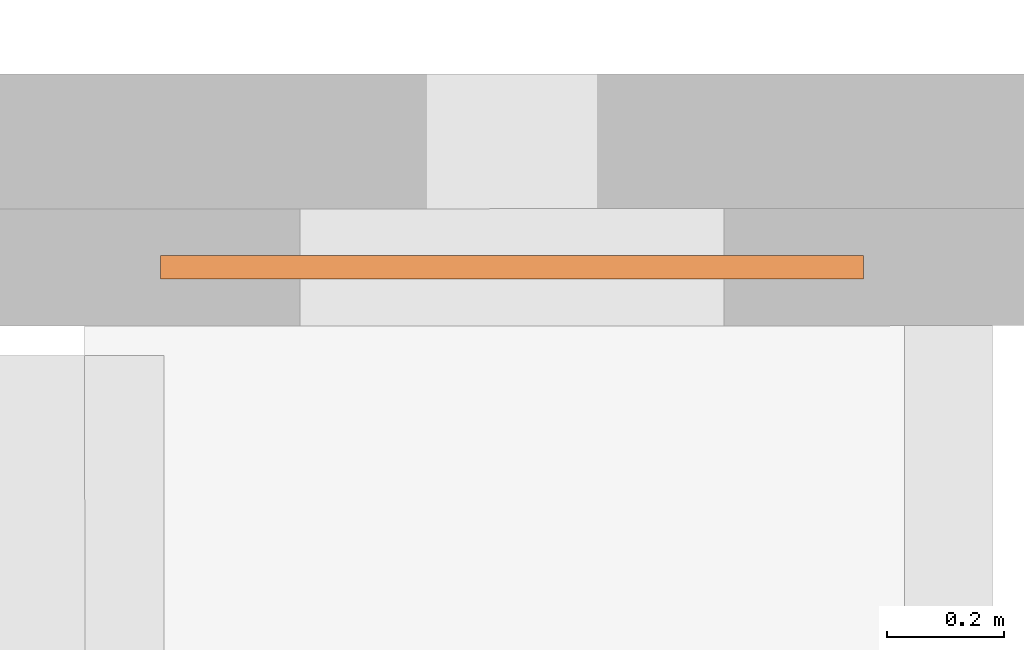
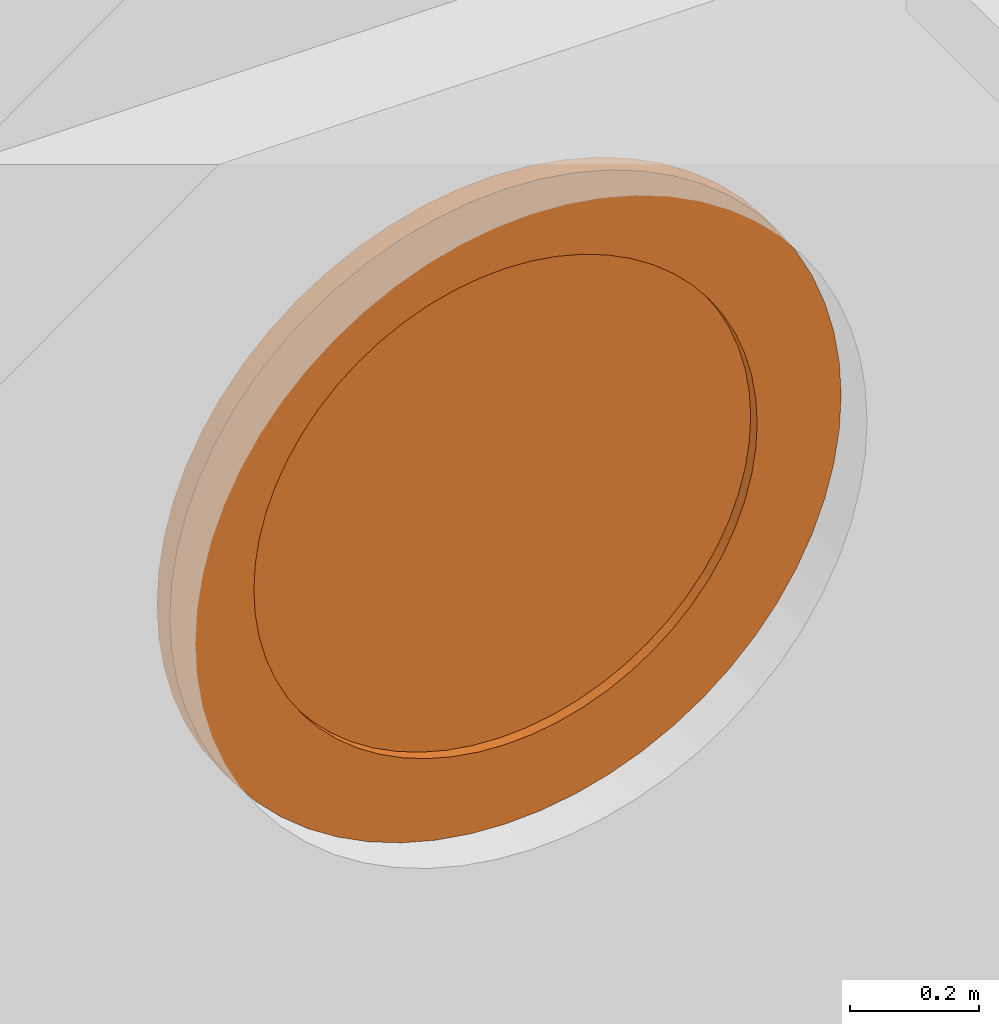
# One storey, part 8 of 9: 1 proxy.
"""IFC2X3 building model written with IfcOpenShell, lengths in metres."""

from ifc_helpers import new_model, entity, si_unit, converted_unit, derived_unit, direction, frame, origin, origin_with_axes, place, context, subcontext, project, spatial, closed_shell, open_shell, surface_model, source, transform, mapped, element, save


model = new_model("IFC2X3")

# Units and contexts
model_context = context("Model", 3, precision=1e-05, world=origin(), true_north=direction((0.772621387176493, -0.634867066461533)))
body_context = subcontext(model_context, "Body", "Model", "MODEL_VIEW")
ifc_project = project(units=[si_unit("LENGTHUNIT", "METRE"), si_unit("AREAUNIT", "SQUARE_METRE"), si_unit("VOLUMEUNIT", "CUBIC_METRE"), si_unit("MASSUNIT", "GRAM", prefix="KILO"), converted_unit("PLANEANGLEUNIT", "DEGREE", entity("IfcPlaneAngleMeasure", 0.0174532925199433), si_unit("PLANEANGLEUNIT", "RADIAN"), dimensions=[0, 0, 0, 0, 0, 0, 0]), derived_unit("THERMALTRANSMITTANCEUNIT", [(si_unit("POWERUNIT", "WATT"), 1), (si_unit("THERMODYNAMICTEMPERATUREUNIT", "KELVIN"), -1), (si_unit("LENGTHUNIT", "METRE"), -2)]), derived_unit("VOLUMETRICFLOWRATEUNIT", [(si_unit("LENGTHUNIT", "METRE"), 3), (converted_unit("TIMEUNIT", "hour", entity("IfcTimeMeasure", 3600.0), si_unit("TIMEUNIT", "SECOND"), dimensions=[0, 0, 1, 0, 0, 0, 0]), -1), (si_unit("LENGTHUNIT", "METRE"), -1)])], contexts=[model_context])

# Site, building, storey
site_placement = place(None, origin())
site = spatial("IfcSite", under=ifc_project, at=site_placement, Name="Modelle auf dem Nullpunkt", CompositionType="ELEMENT")
building_placement = place(site_placement, origin())
building = spatial("IfcBuilding", under=site, at=building_placement, Name="I", CompositionType="ELEMENT")
storey_placement = place(building_placement, origin())
storey = spatial("IfcBuildingStorey", under=building, at=storey_placement, Name="1.OG", CompositionType="ELEMENT", Elevation=0.0)

# Proxy
shared_shape = source(origin_with_axes(), body_context, "Body", "SurfaceModel", [
    surface_model("IfcShellBasedSurfaceModel", [(0.00328937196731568, 0.0, 0.537259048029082), (0.0, 0.0, 0.600024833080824), (0.00328937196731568, 0.0, 0.662740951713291), (0.0131162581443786, 0.0, 0.724769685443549), (0.0293729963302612, 0.0, 0.785431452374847), (0.0518814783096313, 0.0, 0.844061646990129), (0.0803951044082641, 0.0, 0.900017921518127), (0.114601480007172, 0.0, 0.952687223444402), (0.154125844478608, 0.0, 1.00149251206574), (0.198535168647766, 0.0, 1.0458990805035), (0.247342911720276, 0.0, 1.08542041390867), (0.300014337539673, 0.0, 1.11962351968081), (0.355972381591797, 0.0, 1.14813367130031), (0.414603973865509, 0.0, 1.1706385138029), (0.475266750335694, 0.0, 1.18689148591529), (0.537296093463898, 0.0, 1.19671452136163), (0.6000124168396, 0.0, 1.19999999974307), (0.662728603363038, 0.0, 1.19671192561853), (0.724757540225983, 0.0, 1.18688632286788), (0.7854196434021, 0.0, 1.17063084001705), (0.844050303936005, 0.0, 1.14812357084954), (0.900007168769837, 0.0, 1.11961110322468), (0.952677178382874, 0.0, 1.08540581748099), (1.00148328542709, 0.0, 1.04588246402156), (1.04589077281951, 0.0, 1.00147405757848), (1.08541311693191, 0.0, 0.952667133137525), (1.11961731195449, 0.0, 0.899996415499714), (1.14812862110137, 0.0, 0.844038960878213), (1.17063467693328, 0.0, 0.785407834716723), (1.18688890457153, 0.0, 0.724745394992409), (1.19671322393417, 0.0, 0.662716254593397), (1.20000000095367, 0.0, 0.599999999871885), (1.19671322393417, 0.0, 0.537283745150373), (1.18688890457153, 0.0, 0.475254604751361), (1.17063467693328, 0.0, 0.414592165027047), (1.14812862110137, 0.0, 0.355961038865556), (1.11961731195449, 0.0, 0.300003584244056), (1.08541311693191, 0.0, 0.247332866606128), (1.04589077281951, 0.0, 0.198525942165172), (1.00148328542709, 0.0, 0.154117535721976), (0.952677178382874, 0.0, 0.114594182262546), (0.900007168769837, 0.0, 0.0803888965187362), (0.844050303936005, 0.0, 0.0518764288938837), (0.7854196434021, 0.0, 0.0293691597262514), (0.724757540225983, 0.0, 0.0131136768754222), (0.662728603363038, 0.0, 0.00328807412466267), (0.6000124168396, 0.0, 0.0), (0.537296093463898, 0.0, 0.00328547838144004), (0.475266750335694, 0.0, 0.0131085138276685), (0.414603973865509, 0.0, 0.029361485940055), (0.355972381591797, 0.0, 0.0518663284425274), (0.300014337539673, 0.0, 0.0803764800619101), (0.247342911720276, 0.0, 0.114579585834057), (0.198535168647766, 0.0, 0.154100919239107), (0.154125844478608, 0.0, 0.198507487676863), (0.114601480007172, 0.0, 0.247312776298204), (0.0803951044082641, 0.0, 0.299982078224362), (0.0518814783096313, 0.0, 0.355938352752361), (0.0293729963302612, 0.0, 0.414568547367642), (0.0131162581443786, 0.0, 0.475230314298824), (0.15020600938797, 0.0, 0.600021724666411), (0.15267223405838, 0.0, 0.552962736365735), (0.160038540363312, 0.0, 0.506465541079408), (0.172225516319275, 0.0, 0.46099002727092), (0.189099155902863, 0.0, 0.41703749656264), (0.210474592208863, 0.0, 0.375089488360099), (0.236117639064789, 0.0, 0.335605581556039), (0.265747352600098, 0.0, 0.299018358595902), (0.299039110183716, 0.0, 0.265728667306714), (0.335628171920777, 0.0, 0.236101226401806), (0.375113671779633, 0.0, 0.210460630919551), (0.417063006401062, 0.0, 0.189087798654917), (0.461016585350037, 0.0, 0.172216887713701), (0.506492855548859, 0.0, 0.160032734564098), (0.552993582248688, 0.0, 0.152668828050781), (0.600009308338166, 0.0, 0.150205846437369), (0.647024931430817, 0.0, 0.152670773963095), (0.693525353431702, 0.0, 0.160036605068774), (0.739001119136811, 0.0, 0.172222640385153), (0.782953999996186, 0.0, 0.189095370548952), (0.824902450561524, 0.0, 0.210469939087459), (0.864386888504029, 0.0, 0.236112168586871), (0.900974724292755, 0.0, 0.26574112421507), (0.934265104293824, 0.0, 0.299032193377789), (0.963893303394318, 0.0, 0.33562064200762), (0.989534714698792, 0.0, 0.375105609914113), (1.01090841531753, 0.0, 0.417054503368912), (1.0277802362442, 0.0, 0.461007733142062), (1.03996533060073, 0.0, 0.506483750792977), (1.04733019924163, 0.0, 0.55298432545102), (1.04979415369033, 0.0, 0.599999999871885), (1.04733019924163, 0.0, 0.64701567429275), (1.03996533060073, 0.0, 0.693516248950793), (1.0277802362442, 0.0, 0.738992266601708), (1.01090841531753, 0.0, 0.782945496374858), (0.989534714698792, 0.0, 0.824894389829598), (0.963893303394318, 0.0, 0.864379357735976), (0.934265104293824, 0.0, 0.900967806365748), (0.900974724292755, 0.0, 0.934258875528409), (0.864386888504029, 0.0, 0.963887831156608), (0.824902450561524, 0.0, 0.989530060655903), (0.782953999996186, 0.0, 1.01090462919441), (0.739001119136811, 0.0, 1.02777735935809), (0.693525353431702, 0.0, 1.03996339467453), (0.647024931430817, 0.0, 1.04732922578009), (0.600009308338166, 0.0, 1.0497941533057), (0.552993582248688, 0.0, 1.04733117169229), (0.506492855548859, 0.0, 1.03996726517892), (0.461016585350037, 0.0, 1.02778311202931), (0.417063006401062, 0.0, 1.01091220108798), (0.375113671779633, 0.0, 0.989539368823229), (0.335628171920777, 0.0, 0.963898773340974), (0.299039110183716, 0.0, 0.934271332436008), (0.265747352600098, 0.0, 0.900981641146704), (0.236117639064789, 0.0, 0.864394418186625), (0.210474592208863, 0.0, 0.824910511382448), (0.189099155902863, 0.0, 0.78296250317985), (0.172225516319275, 0.0, 0.739009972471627), (0.160038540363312, 0.0, 0.693534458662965), (0.152671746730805, 0.0, 0.64703418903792), (0.0, 0.0399999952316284, 0.600024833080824), (0.00328937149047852, 0.0399999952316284, 0.537259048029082), (0.0131162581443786, 0.0399999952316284, 0.475230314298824), (0.0293729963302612, 0.039999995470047, 0.414568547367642), (0.0518814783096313, 0.0399999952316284, 0.355938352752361), (0.0803951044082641, 0.039999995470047, 0.299982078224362), (0.114601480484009, 0.0399999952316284, 0.247312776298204), (0.154125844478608, 0.039999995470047, 0.198507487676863), (0.198535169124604, 0.0399999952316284, 0.154100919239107), (0.247342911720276, 0.0399999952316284, 0.114579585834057), (0.300014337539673, 0.0399999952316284, 0.0803764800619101), (0.35597238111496, 0.0399999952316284, 0.0518663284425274), (0.414603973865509, 0.0399999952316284, 0.029361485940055), (0.475266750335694, 0.0399999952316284, 0.0131085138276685), (0.537296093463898, 0.039999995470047, 0.00328547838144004), (0.6000124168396, 0.0399999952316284, 0.0), (0.6627286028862, 0.0399999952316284, 0.00328807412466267), (0.724757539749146, 0.039999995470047, 0.0131136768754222), (0.785419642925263, 0.0399999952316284, 0.0293691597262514), (0.844050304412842, 0.0399999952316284, 0.0518764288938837), (0.900007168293, 0.039999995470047, 0.0803888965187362), (0.952677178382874, 0.039999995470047, 0.114594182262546), (1.00148328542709, 0.0399999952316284, 0.154117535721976), (1.04589077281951, 0.0399999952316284, 0.198525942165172), (1.08541311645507, 0.0399999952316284, 0.247332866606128), (1.11961731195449, 0.039999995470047, 0.300003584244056), (1.14812862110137, 0.0399999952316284, 0.355961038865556), (1.17063467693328, 0.039999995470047, 0.414592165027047), (1.18688890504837, 0.0399999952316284, 0.475254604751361), (1.19671322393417, 0.0399999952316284, 0.537283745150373), (1.20000000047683, 0.0399999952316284, 0.599999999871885), (1.19671322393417, 0.0399999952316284, 0.662716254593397), (1.18688890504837, 0.0399999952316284, 0.724745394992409), (1.17063467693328, 0.039999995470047, 0.785407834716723), (1.14812862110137, 0.0399999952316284, 0.844038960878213), (1.11961731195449, 0.039999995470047, 0.899996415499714), (1.08541311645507, 0.0399999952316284, 0.952667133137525), (1.04589077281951, 0.0399999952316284, 1.00147405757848), (1.00148328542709, 0.0399999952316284, 1.04588246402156), (0.952677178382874, 0.039999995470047, 1.08540581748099), (0.900007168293, 0.039999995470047, 1.11961110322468), (0.844050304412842, 0.0399999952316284, 1.14812357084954), (0.785419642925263, 0.0399999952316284, 1.17063084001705), (0.724757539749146, 0.039999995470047, 1.18688632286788), (0.6627286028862, 0.0399999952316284, 1.19671192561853), (0.6000124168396, 0.0399999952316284, 1.19999999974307), (0.537296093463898, 0.039999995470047, 1.19671452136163), (0.475266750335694, 0.0399999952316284, 1.18689148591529), (0.414603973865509, 0.0399999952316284, 1.1706385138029), (0.35597238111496, 0.0399999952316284, 1.14813367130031), (0.300014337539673, 0.0399999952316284, 1.11962351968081), (0.247342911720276, 0.0399999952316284, 1.08542041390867), (0.198535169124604, 0.0399999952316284, 1.0458990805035), (0.154125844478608, 0.039999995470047, 1.00149251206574), (0.114601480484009, 0.0399999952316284, 0.952687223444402), (0.0803951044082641, 0.039999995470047, 0.900017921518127), (0.0518814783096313, 0.0399999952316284, 0.844061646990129), (0.0293729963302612, 0.039999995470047, 0.785431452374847), (0.0131162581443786, 0.0399999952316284, 0.724769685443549), (0.00328937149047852, 0.0399999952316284, 0.662740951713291), (0.152672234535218, 0.0399999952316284, 0.552962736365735), (0.15020600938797, 0.0399999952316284, 0.600021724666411), (0.152671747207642, 0.039999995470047, 0.64703418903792), (0.160038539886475, 0.039999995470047, 0.693534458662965), (0.172225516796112, 0.0399999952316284, 0.739009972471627), (0.189099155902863, 0.0399999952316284, 0.78296250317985), (0.2104745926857, 0.039999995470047, 0.824910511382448), (0.236117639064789, 0.0399999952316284, 0.864394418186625), (0.265747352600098, 0.039999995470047, 0.900981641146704), (0.299039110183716, 0.0399999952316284, 0.934271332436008), (0.335628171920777, 0.039999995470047, 0.963898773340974), (0.375113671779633, 0.0399999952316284, 0.989539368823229), (0.417063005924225, 0.0399999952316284, 1.01091220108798), (0.4610165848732, 0.0399999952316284, 1.02778311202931), (0.506492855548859, 0.0399999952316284, 1.03996726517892), (0.552993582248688, 0.0399999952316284, 1.04733117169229), (0.600009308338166, 0.0399999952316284, 1.0497941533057), (0.647024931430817, 0.039999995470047, 1.04732922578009), (0.693525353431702, 0.039999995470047, 1.03996339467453), (0.739001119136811, 0.039999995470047, 1.02777735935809), (0.782953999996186, 0.0399999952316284, 1.01090462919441), (0.824902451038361, 0.039999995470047, 0.989530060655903), (0.864386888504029, 0.039999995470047, 0.963887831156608), (0.900974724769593, 0.0399999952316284, 0.934258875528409), (0.934265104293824, 0.039999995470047, 0.900967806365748), (0.963893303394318, 0.0399999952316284, 0.864379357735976), (0.989534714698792, 0.0399999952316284, 0.824894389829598), (1.01090841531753, 0.0399999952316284, 0.782945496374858), (1.0277802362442, 0.0399999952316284, 0.738992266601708), (1.03996533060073, 0.0399999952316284, 0.693516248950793), (1.04733019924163, 0.0399999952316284, 0.64701567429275), (1.04979415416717, 0.0399999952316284, 0.599999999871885), (1.04733019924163, 0.0399999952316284, 0.55298432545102), (1.03996533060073, 0.0399999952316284, 0.506483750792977), (1.0277802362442, 0.0399999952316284, 0.461007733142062), (1.01090841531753, 0.0399999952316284, 0.417054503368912), (0.989534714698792, 0.0399999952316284, 0.375105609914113), (0.963893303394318, 0.0399999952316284, 0.33562064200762), (0.934265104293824, 0.039999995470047, 0.299032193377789), (0.900974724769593, 0.0399999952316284, 0.26574112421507), (0.864386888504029, 0.039999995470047, 0.236112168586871), (0.824902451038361, 0.039999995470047, 0.210469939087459), (0.782953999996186, 0.0399999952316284, 0.189095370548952), (0.739001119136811, 0.039999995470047, 0.172222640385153), (0.693525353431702, 0.039999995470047, 0.160036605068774), (0.647024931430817, 0.039999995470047, 0.152670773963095), (0.600009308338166, 0.0399999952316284, 0.150205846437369), (0.552993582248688, 0.0399999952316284, 0.152668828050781), (0.506492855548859, 0.0399999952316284, 0.160032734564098), (0.4610165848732, 0.0399999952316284, 0.172216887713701), (0.417063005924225, 0.0399999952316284, 0.189087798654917), (0.375113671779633, 0.0399999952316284, 0.210460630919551), (0.335628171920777, 0.039999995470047, 0.236101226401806), (0.299039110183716, 0.0399999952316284, 0.265728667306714), (0.265747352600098, 0.039999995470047, 0.299018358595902), (0.236117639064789, 0.0399999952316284, 0.335605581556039), (0.2104745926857, 0.039999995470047, 0.375089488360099), (0.189099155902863, 0.0399999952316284, 0.41703749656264), (0.172225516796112, 0.0399999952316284, 0.46099002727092), (0.160038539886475, 0.039999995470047, 0.506465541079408)], [closed_shell([[[0, 1, 2, 3, 4, 5, 6, 7, 8, 9, 10, 11, 12, 13, 14, 15, 16, 17, 18, 19, 20, 21, 22, 23, 24, 25, 26, 27, 28, 29, 30, 31, 32, 33, 34, 35, 36, 37, 38, 39, 40, 41, 42, 43, 44, 45, 46, 47, 48, 49, 50, 51, 52, 53, 54, 55, 56, 57, 58, 59], [60, 61, 62, 63, 64, 65, 66, 67, 68, 69, 70, 71, 72, 73, 74, 75, 76, 77, 78, 79, 80, 81, 82, 83, 84, 85, 86, 87, 88, 89, 90, 91, 92, 93, 94, 95, 96, 97, 98, 99, 100, 101, 102, 103, 104, 105, 106, 107, 108, 109, 110, 111, 112, 113, 114, 115, 116, 117, 118, 119]], [[120, 121, 122, 123, 124, 125, 126, 127, 128, 129, 130, 131, 132, 133, 134, 135, 136, 137, 138, 139, 140, 141, 142, 143, 144, 145, 146, 147, 148, 149, 150, 151, 152, 153, 154, 155, 156, 157, 158, 159, 160, 161, 162, 163, 164, 165, 166, 167, 168, 169, 170, 171, 172, 173, 174, 175, 176, 177, 178, 179], [180, 181, 182, 183, 184, 185, 186, 187, 188, 189, 190, 191, 192, 193, 194, 195, 196, 197, 198, 199, 200, 201, 202, 203, 204, 205, 206, 207, 208, 209, 210, 211, 212, 213, 214, 215, 216, 217, 218, 219, 220, 221, 222, 223, 224, 225, 226, 227, 228, 229, 230, 231, 232, 233, 234, 235, 236, 237, 238, 239]], [[1, 0, 121, 120]], [[2, 1, 120, 179]], [[3, 2, 179, 178]], [[4, 3, 178, 177]], [[5, 4, 177, 176]], [[6, 5, 176, 175]], [[7, 6, 175, 174]], [[8, 7, 174, 173]], [[9, 8, 173, 172]], [[10, 9, 172, 171]], [[11, 10, 171, 170]], [[12, 11, 170, 169]], [[13, 12, 169, 168]], [[14, 13, 168, 167]], [[15, 14, 167, 166]], [[16, 15, 166, 165]], [[17, 16, 165, 164]], [[18, 17, 164, 163]], [[19, 18, 163, 162]], [[20, 19, 162, 161]], [[21, 20, 161, 160]], [[22, 21, 160, 159]], [[23, 22, 159, 158]], [[24, 23, 158, 157]], [[25, 24, 157, 156]], [[26, 25, 156, 155]], [[27, 26, 155, 154]], [[28, 27, 154, 153]], [[29, 28, 153, 152]], [[30, 29, 152, 151]], [[31, 30, 151, 150]], [[32, 31, 150, 149]], [[33, 32, 149, 148]], [[34, 33, 148, 147]], [[35, 34, 147, 146]], [[36, 35, 146, 145]], [[37, 36, 145, 144]], [[38, 37, 144, 143]], [[39, 38, 143, 142]], [[40, 39, 142, 141]], [[41, 40, 141, 140]], [[42, 41, 140, 139]], [[43, 42, 139, 138]], [[44, 43, 138, 137]], [[45, 44, 137, 136]], [[46, 45, 136, 135]], [[47, 46, 135, 134]], [[48, 47, 134, 133]], [[49, 48, 133, 132]], [[50, 49, 132, 131]], [[51, 50, 131, 130]], [[52, 51, 130, 129]], [[53, 52, 129, 128]], [[54, 53, 128, 127]], [[55, 54, 127, 126]], [[56, 55, 126, 125]], [[57, 56, 125, 124]], [[58, 57, 124, 123]], [[59, 58, 123, 122]], [[0, 59, 122, 121]], [[60, 181, 180, 61]], [[119, 182, 181, 60]], [[118, 183, 182, 119]], [[117, 184, 183, 118]], [[116, 185, 184, 117]], [[115, 186, 185, 116]], [[114, 187, 186, 115]], [[113, 188, 187, 114]], [[112, 189, 188, 113]], [[111, 190, 189, 112]], [[110, 191, 190, 111]], [[109, 192, 191, 110]], [[108, 193, 192, 109]], [[107, 194, 193, 108]], [[106, 195, 194, 107]], [[105, 196, 195, 106]], [[104, 197, 196, 105]], [[103, 198, 197, 104]], [[102, 199, 198, 103]], [[101, 200, 199, 102]], [[100, 201, 200, 101]], [[99, 202, 201, 100]], [[98, 203, 202, 99]], [[97, 204, 203, 98]], [[96, 205, 204, 97]], [[95, 206, 205, 96]], [[94, 207, 206, 95]], [[93, 208, 207, 94]], [[92, 209, 208, 93]], [[91, 210, 209, 92]], [[90, 211, 210, 91]], [[89, 212, 211, 90]], [[88, 213, 212, 89]], [[87, 214, 213, 88]], [[86, 215, 214, 87]], [[85, 216, 215, 86]], [[84, 217, 216, 85]], [[83, 218, 217, 84]], [[82, 219, 218, 83]], [[81, 220, 219, 82]], [[80, 221, 220, 81]], [[79, 222, 221, 80]], [[78, 223, 222, 79]], [[77, 224, 223, 78]], [[76, 225, 224, 77]], [[75, 226, 225, 76]], [[74, 227, 226, 75]], [[73, 228, 227, 74]], [[72, 229, 228, 73]], [[71, 230, 229, 72]], [[70, 231, 230, 71]], [[69, 232, 231, 70]], [[68, 233, 232, 69]], [[67, 234, 233, 68]], [[66, 235, 234, 67]], [[65, 236, 235, 66]], [[64, 237, 236, 65]], [[63, 238, 237, 64]], [[62, 239, 238, 63]], [[61, 180, 239, 62]]], orient=[[False, False], [False, False], [False], [False], [False], [False], [False], [False], [False], [False], [False], [False], [False], [False], [False], [False], [False], [False], [False], [False], [False], [False], [False], [False], [False], [False], [False], [False], [False], [False], [False], [False], [False], [False], [False], [False], [False], [False], [False], [False], [False], [False], [False], [False], [False], [False], [False], [False], [False], [False], [False], [False], [False], [False], [False], [False], [False], [False], [False], [False], [False], [False], [False], [False], [False], [False], [False], [False], [False], [False], [False], [False], [False], [False], [False], [False], [False], [False], [False], [False], [False], [False], [False], [False], [False], [False], [False], [False], [False], [False], [False], [False], [False], [False], [False], [False], [False], [False], [False], [False], [False], [False], [False], [False], [False], [False], [False], [False], [False], [False], [False], [False], [False], [False], [False], [False], [False], [False], [False], [False], [False], [False]])]),
    surface_model("IfcShellBasedSurfaceModel", [(0.150204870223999, 0.0200000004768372, 0.599999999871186), (0.152671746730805, 0.0200000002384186, 0.64703418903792), (0.160038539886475, 0.0200000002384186, 0.693534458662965), (0.172225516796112, 0.0200000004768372, 0.739009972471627), (0.189099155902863, 0.0200000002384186, 0.78296250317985), (0.2104745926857, 0.0200000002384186, 0.824910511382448), (0.236117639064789, 0.0200000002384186, 0.864394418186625), (0.265747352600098, 0.0200000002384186, 0.900981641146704), (0.299039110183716, 0.0200000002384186, 0.934271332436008), (0.335628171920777, 0.0200000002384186, 0.963898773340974), (0.375113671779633, 0.0200000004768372, 0.989539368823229), (0.417063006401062, 0.0200000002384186, 1.01091220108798), (0.461016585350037, 0.0200000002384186, 1.02778311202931), (0.506492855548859, 0.0200000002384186, 1.03996726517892), (0.552993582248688, 0.0200000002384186, 1.04733117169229), (0.600009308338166, 0.0200000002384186, 1.0497941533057), (0.647024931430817, 0.0200000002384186, 1.04732922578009), (0.693525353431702, 0.0200000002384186, 1.03996339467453), (0.739001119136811, 0.0200000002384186, 1.02777735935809), (0.782954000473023, 0.0200000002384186, 1.01090462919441), (0.824902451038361, 0.0200000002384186, 0.989530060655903), (0.864386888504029, 0.0200000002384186, 0.963887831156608), (0.900974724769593, 0.0200000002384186, 0.934258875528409), (0.934265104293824, 0.0200000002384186, 0.900967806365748), (0.963893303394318, 0.0200000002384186, 0.864379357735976), (0.989534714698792, 0.0200000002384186, 0.824894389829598), (1.01090841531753, 0.0200000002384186, 0.782945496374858), (1.0277802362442, 0.0200000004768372, 0.738992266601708), (1.03996533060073, 0.0200000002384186, 0.693516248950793), (1.04733019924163, 0.0200000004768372, 0.64701567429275), (1.04979415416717, 0.0200000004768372, 0.599999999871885), (1.04733019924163, 0.0200000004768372, 0.55298432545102), (1.03996533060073, 0.0200000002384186, 0.506483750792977), (1.0277802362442, 0.0200000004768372, 0.461007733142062), (1.01090841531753, 0.0200000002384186, 0.417054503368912), (0.989534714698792, 0.0200000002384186, 0.375105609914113), (0.963893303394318, 0.0200000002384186, 0.33562064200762), (0.934265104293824, 0.0200000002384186, 0.299032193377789), (0.900974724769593, 0.0200000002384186, 0.26574112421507), (0.864386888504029, 0.0200000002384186, 0.236112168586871), (0.824902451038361, 0.0200000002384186, 0.210469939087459), (0.782954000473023, 0.0200000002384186, 0.189095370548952), (0.739001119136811, 0.0200000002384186, 0.172222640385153), (0.693525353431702, 0.0200000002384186, 0.160036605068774), (0.647024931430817, 0.0200000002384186, 0.152670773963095), (0.600009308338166, 0.0200000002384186, 0.150205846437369), (0.552993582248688, 0.0200000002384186, 0.152668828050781), (0.506492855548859, 0.0200000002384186, 0.160032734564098), (0.461016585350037, 0.0200000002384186, 0.172216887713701), (0.417063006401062, 0.0200000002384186, 0.189087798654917), (0.375113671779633, 0.0200000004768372, 0.210460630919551), (0.335628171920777, 0.0200000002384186, 0.236101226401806), (0.299039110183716, 0.0200000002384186, 0.265728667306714), (0.265747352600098, 0.0200000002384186, 0.299018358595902), (0.236117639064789, 0.0200000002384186, 0.335605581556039), (0.2104745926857, 0.0200000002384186, 0.375089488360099), (0.189099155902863, 0.0200000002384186, 0.41703749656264), (0.172225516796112, 0.0200000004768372, 0.46099002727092), (0.160038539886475, 0.0200000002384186, 0.506465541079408), (0.152671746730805, 0.0200000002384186, 0.552965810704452)], [open_shell([[[0, 1, 2, 3, 4, 5, 6, 7, 8, 9, 10, 11, 12, 13, 14, 15, 16, 17, 18, 19, 20, 21, 22, 23, 24, 25, 26, 27, 28, 29, 30, 31, 32, 33, 34, 35, 36, 37, 38, 39, 40, 41, 42, 43, 44, 45, 46, 47, 48, 49, 50, 51, 52, 53, 54, 55, 56, 57, 58, 59]]], orient=[[False]])]),
])
proxy_placement = place(storey_placement, frame((32.7919899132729, 2.01782476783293, 439.900000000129), z_axis=(0.0, 0.0, 1.0), x_axis=(0.999999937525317, 0.00035348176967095, 0.0)))
element("IfcBuildingElementProxy", 1, at=proxy_placement, inside=storey, Name="2flg Weiß Stulp", context=body_context, shape_type="MappedRepresentation", body=[
    mapped(shared_shape, transform((0.0, 0.0, 0.0), x_axis=(1.0, 0.0, 0.0), y_axis=(0.0, 1.0, 0.0), z_axis=(0.0, 0.0, 1.0), scale=1.0)),
])

save(model, "model.ifc")
